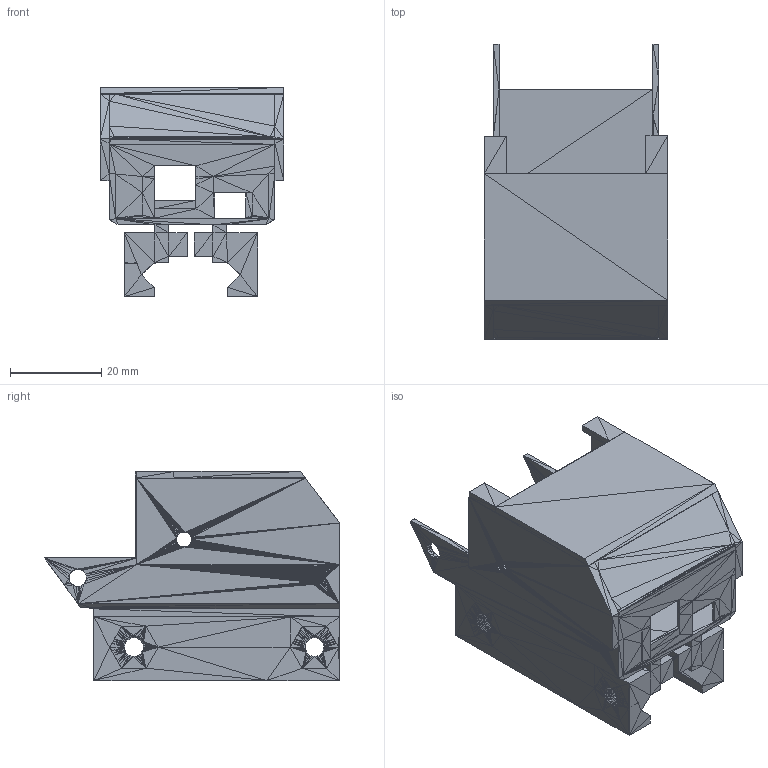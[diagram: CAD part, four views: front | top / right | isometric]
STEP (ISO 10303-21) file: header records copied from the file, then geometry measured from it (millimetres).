
FILE_DESCRIPTION(('FreeCAD Model'),'2;1');
FILE_NAME('Open CASCADE Shape Model','2025-03-06T12:14:20',('Author'),( ''),'Open CASCADE STEP processor 7.8','FreeCAD','Unknown');
FILE_SCHEMA(('AUTOMOTIVE_DESIGN { 1 0 10303 214 1 1 1 1 }'));
Products named in the file (1): FOSSToritisRailAttach002 (Solid)
Bounding box: 40.33 x 64.78 x 45.93 mm (x, y, z)
Volume: 23698.4 mm3; surface area: 21525.9 mm2
Topology: 1 solids, 1 shells, 7440 faces, 11160 edges, 3698 vertices
Faces by surface type: plane 7440
Entity records: 145066 total; most frequent: DIRECTION 26042, ORIENTED_EDGE 22320, CARTESIAN_POINT 22299, EDGE_CURVE 11160, LINE 11160, VECTOR 11160, AXIS2_PLACEMENT_3D 7441, ADVANCED_FACE 7440
